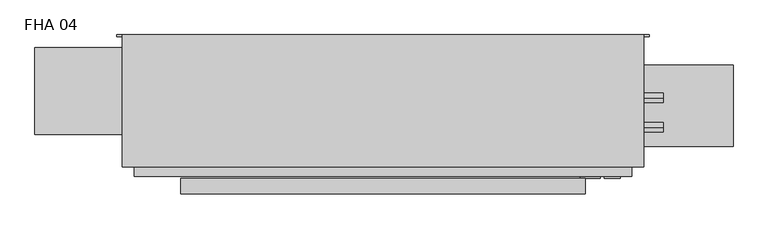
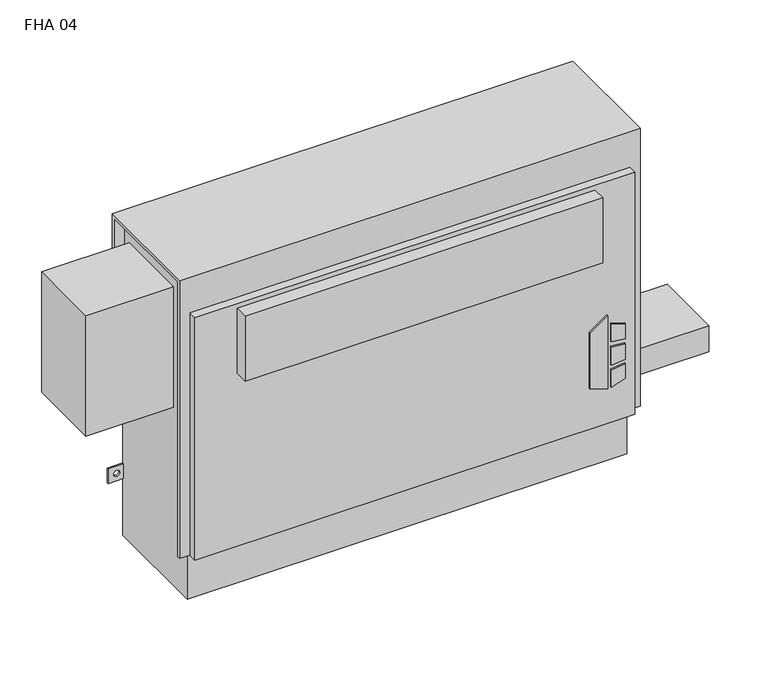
"""IFC4 building model written with IfcOpenShell, lengths in millimetres: proxy geometry, Vertical_Fan_Coil_Unit_-_FHA_-_IEC_-_2-Pipe_FS-FR_RH_2022 : FHA 04."""

import ifcopenshell
import ifcopenshell.guid

model = None  # the IFC model being written
_history = None  # IfcOwnerHistory: only IFC2X3 demands one
_inside = {}  # id of a spatial element -> (the spatial element, [elements in it])
_under = {}  # id of a project, library or spatial element -> (it, [spatial elements below it])
_declared = {}  # id of a project -> (the project, [libraries it declares])
_typed = {}  # id of a type object -> (the type object, [elements of that type])
_made_of = {}  # id of a material, layer set ... -> (it, [elements and type objects made of it])


def new_model(schema):
    """Start an empty IFC model of exactly this schema.

    Asked for "IFC4X3", IfcOpenShell would pick the latest addendum, in which some entities
    have other attributes; the version numbers below select the first issue.
    IFC2X3 requires an IfcOwnerHistory on every rooted entity: one is made here for all.
    """
    global model, _history
    if schema == "IFC4X3":
        model = ifcopenshell.file(schema_version=(4, 3, 0, 0))
    else:
        model = ifcopenshell.file(schema=schema)
    _inside.clear()
    _under.clear()
    _declared.clear()
    _typed.clear()
    _made_of.clear()
    _history = None
    if model.schema == "IFC2X3":
        org = make("IfcOrganization", Name="unknown")
        user = make(
            "IfcPersonAndOrganization",
            ThePerson=make("IfcPerson", FamilyName="unknown"),
            TheOrganization=org,
        )
        app = make(
            "IfcApplication",
            ApplicationDeveloper=org,
            Version="unknown",
            ApplicationFullName="unknown",
            ApplicationIdentifier="unknown",
        )
        _history = make(
            "IfcOwnerHistory",
            OwningUser=user,
            OwningApplication=app,
            ChangeAction="ADDED",
            CreationDate=0,
        )
    return model


def make(cls, **values):
    """One entity of the class cls with the attributes given. An attribute that is None is left unset."""
    return model.create_entity(
        cls, **{name: value for name, value in values.items() if value is not None}
    )


def rooted(cls, **values):
    """An entity with a GlobalId (a new one), such as an element, a storey or a relation."""
    return make(cls, GlobalId=ifcopenshell.guid.new(), OwnerHistory=_history, **values)


def si_unit(unit_type, name, prefix=None):
    """IfcSIUnit, for example si_unit("LENGTHUNIT", "METRE", prefix="MILLI")."""
    return make("IfcSIUnit", UnitType=unit_type, Prefix=prefix, Name=name)


def assignment(units):
    """IfcUnitAssignment: the units of a project."""
    return None if units is None else make("IfcUnitAssignment", Units=units)


def point(xyz):
    """IfcCartesianPoint."""
    return None if xyz is None else make("IfcCartesianPoint", Coordinates=xyz)


def direction(xyz):
    """IfcDirection."""
    return None if xyz is None else make("IfcDirection", DirectionRatios=xyz)


def frame(location, z_axis=None, x_axis=None):
    """IfcAxis2Placement3D, a coordinate frame: its origin and axes. An axis left out is left unset."""
    return make(
        "IfcAxis2Placement3D",
        Location=point(location),
        Axis=direction(z_axis),
        RefDirection=direction(x_axis),
    )


def frame_2d(location, x_axis=None):
    """IfcAxis2Placement2D, a coordinate frame in the plane: its origin and x axis."""
    return make(
        "IfcAxis2Placement2D", Location=point(location), RefDirection=direction(x_axis)
    )


def origin():
    """The frame at (0, 0, 0) with its axes left unset."""
    return frame((0.0, 0.0, 0.0))


def place(relative_to, where):
    """IfcLocalPlacement: puts the frame where relative to a parent placement (None: the world)."""
    return make(
        "IfcLocalPlacement", PlacementRelTo=relative_to, RelativePlacement=where
    )


def context(
    kind, dimensions, precision=None, world=None, true_north=None, identifier=None
):
    """IfcGeometricRepresentationContext, for example the 3D "Model" context."""
    return make(
        "IfcGeometricRepresentationContext",
        ContextIdentifier=identifier,
        ContextType=kind,
        CoordinateSpaceDimension=dimensions,
        Precision=precision,
        WorldCoordinateSystem=world,
        TrueNorth=true_north,
    )


def project(units=None, contexts=None):
    """IfcProject with its units and contexts."""
    return rooted(
        "IfcProject",
        Name="project",
        RepresentationContexts=contexts,
        UnitsInContext=assignment(units),
    )


def spatial(cls, under=None, at=None, **own):
    """A site, building, storey or space (cls), placed at a placement, below another one or the project."""
    s = rooted(cls, ObjectPlacement=at, **own)
    if under is not None:
        _under.setdefault(under.id(), (under, []))[1].append(s)
    return s


def polyline(points):
    """IfcPolyline through the points."""
    return make("IfcPolyline", Points=[point(p) for p in points])


def circle_curve(where, radius):
    """IfcCircle in the frame where."""
    return make("IfcCircle", Position=where, Radius=radius)


def trimmed(basis, trim1, trim2, sense, master):
    """IfcTrimmedCurve: the piece of a basis curve between two trims."""
    return make(
        "IfcTrimmedCurve",
        BasisCurve=basis,
        Trim1=trim1,
        Trim2=trim2,
        SenseAgreement=sense,
        MasterRepresentation=master,
    )


def segment(curve, same_sense, transition):
    """IfcCompositeCurveSegment."""
    return make(
        "IfcCompositeCurveSegment",
        Transition=transition,
        SameSense=same_sense,
        ParentCurve=curve,
    )


def composite_curve(segments, self_intersect=None):
    """IfcCompositeCurve: segments joined end to end."""
    return make("IfcCompositeCurve", Segments=segments, SelfIntersect=self_intersect)


def outline(outer, holes=None, kind="AREA"):
    """IfcArbitraryClosedProfileDef: a profile drawn as a closed curve; with holes, ...WithVoids."""
    if holes is None:
        return make("IfcArbitraryClosedProfileDef", ProfileType=kind, OuterCurve=outer)
    return make(
        "IfcArbitraryProfileDefWithVoids",
        ProfileType=kind,
        OuterCurve=outer,
        InnerCurves=holes,
    )


def extrude(swept, where, along, depth):
    """IfcExtrudedAreaSolid: the profile swept, set in the frame where, extruded along a direction by depth."""
    return make(
        "IfcExtrudedAreaSolid",
        SweptArea=swept,
        Position=where,
        ExtrudedDirection=direction(along),
        Depth=depth,
    )


def shape(context_of_items, identifier, shape_type, items):
    """IfcShapeRepresentation: the items that make up one representation, for example the "Body"."""
    return make(
        "IfcShapeRepresentation",
        ContextOfItems=context_of_items,
        RepresentationIdentifier=identifier,
        RepresentationType=shape_type,
        Items=items,
    )


def source(mapping_origin, context_of_items, identifier, shape_type, items):
    """IfcRepresentationMap: a shape defined once, which mapped items show again and again."""
    return make(
        "IfcRepresentationMap",
        MappingOrigin=mapping_origin,
        MappedRepresentation=shape(context_of_items, identifier, shape_type, items),
    )


def transform(
    local_origin,
    x_axis=None,
    y_axis=None,
    z_axis=None,
    scale=None,
    scale2=None,
    scale3=None,
    uniform=True,
):
    """IfcCartesianTransformationOperator3D, or its non-uniform kind. x_axis, y_axis, z_axis: its Axis1, 2, 3."""
    if uniform:
        return make(
            "IfcCartesianTransformationOperator3D",
            Axis1=direction(x_axis),
            Axis2=direction(y_axis),
            LocalOrigin=point(local_origin),
            Scale=scale,
            Axis3=direction(z_axis),
        )
    return make(
        "IfcCartesianTransformationOperator3DnonUniform",
        Axis1=direction(x_axis),
        Axis2=direction(y_axis),
        LocalOrigin=point(local_origin),
        Scale=scale,
        Axis3=direction(z_axis),
        Scale2=scale2,
        Scale3=scale3,
    )


def mapped(mapping_source, mapping_target):
    """IfcMappedItem: shows the shape of a source again, moved by a transform."""
    return make(
        "IfcMappedItem", MappingSource=mapping_source, MappingTarget=mapping_target
    )


def made_of(thing, what):
    """Note that an element or type object is made of a material, layer set ...; save() writes the relation."""
    if what is not None:
        _made_of.setdefault(what.id(), (what, []))[1].append(thing)
    return thing


def element(
    cls,
    number,
    at=None,
    inside=None,
    cuts=None,
    type_object=None,
    material=None,
    context=None,
    identifier="Body",
    shape_type=None,
    held_by="IfcProductDefinitionShape",
    body=None,
    shapes=None,
    **own,
):
    """One element of the class cls, such as IfcWall. Its Tag is "e" and its number.

    at: its placement. inside: the storey or other place that contains it. cuts: it is an
    opening in that element (IfcRelVoidsElement). A single representation is given by context,
    identifier, shape_type and body (its items); several are given by shapes. held_by: the class
    of the entity that holds the representations. save() writes the other relations.
    """
    e = rooted(cls, Tag="e%d" % number, ObjectPlacement=at, **own)
    if body is not None:
        shapes = [shape(context, identifier, shape_type, body)]
    if shapes is not None:
        e.Representation = make(held_by, Representations=shapes)
    if inside is not None:
        _inside.setdefault(inside.id(), (inside, []))[1].append(e)
    if cuts is not None:
        rooted(
            "IfcRelVoidsElement", RelatingBuildingElement=cuts, RelatedOpeningElement=e
        )
    if type_object is not None:
        _typed.setdefault(type_object.id(), (type_object, []))[1].append(e)
    return made_of(e, material)


def aggregate(whole, parts):
    """IfcRelAggregates: a whole, such as a stair, and the parts it consists of."""
    return rooted("IfcRelAggregates", RelatingObject=whole, RelatedObjects=parts)


def save(model, path):
    """Write the relations noted so far, then the file.

    IfcRelAggregates (storeys below a building ...), IfcRelContainedInSpatialStructure (elements
    in a storey), IfcRelDefinesByType, IfcRelAssociatesMaterial and IfcRelDeclares: one each for
    every whole, place, type object, material and project.
    """
    for whole, parts in _under.values():
        aggregate(whole, parts)
    for where, things in _inside.values():
        rooted(
            "IfcRelContainedInSpatialStructure",
            RelatedElements=things,
            RelatingStructure=where,
        )
    for kind, things in _typed.values():
        rooted("IfcRelDefinesByType", RelatedObjects=things, RelatingType=kind)
    for what, things in _made_of.values():
        rooted("IfcRelAssociatesMaterial", RelatedObjects=things, RelatingMaterial=what)
    for by, libraries in _declared.values():
        rooted("IfcRelDeclares", RelatingContext=by, RelatedDefinitions=libraries)
    model.write(path)


def plane_surface(at):
    """IfcPlane: the flat surface through the origin of the frame at, square to its z axis."""
    return make("IfcPlane", Position=at)


def revolved_surface(curve, axis_point, axis_direction):
    """IfcSurfaceOfRevolution: the curve turned about the line through axis_point along axis_direction."""
    return make(
        "IfcSurfaceOfRevolution",
        SweptCurve=make("IfcArbitraryOpenProfileDef", ProfileType="CURVE", Curve=curve),
        AxisPosition=make("IfcAxis1Placement", Location=point(axis_point), Axis=direction(axis_direction)),
    )


def advanced_brep(points, edges, surfaces, faces):
    """IfcAdvancedBrep: a solid bounded by faces that lie on surfaces and meet in shared edges.

    An edge is (start, end): straight between two places in points (the first is 0);
    or (start, end, curve); or (start, end, curve, False) where it runs against its curve.
    A face is (place in surfaces, loops), or (place, loops, False) where it looks against
    its surface's normal. A loop lists edges by number (the first is 1), with a minus sign
    where the edge is run from its end to its start. The first loop is the outer one.
    """
    corners = [point(p) for p in points]
    vertices = [make("IfcVertexPoint", VertexGeometry=c) for c in corners]
    made = []
    for start, end, *more in edges:
        made.append(
            make(
                "IfcEdgeCurve",
                EdgeStart=vertices[start],
                EdgeEnd=vertices[end],
                EdgeGeometry=more[0] if more else make("IfcPolyline", Points=[corners[start], corners[end]]),
                SameSense=more[1] if len(more) > 1 else True,
            )
        )
    hull = []
    for where, loops, *sense in faces:
        bounds = []
        for j, loop in enumerate(loops):
            ring = [make("IfcOrientedEdge", EdgeElement=made[abs(k) - 1], Orientation=k > 0) for k in loop]
            bounds.append(
                make(
                    "IfcFaceOuterBound" if j == 0 else "IfcFaceBound",
                    Bound=make("IfcEdgeLoop", EdgeList=ring),
                    Orientation=True,
                )
            )
        hull.append(make("IfcAdvancedFace", Bounds=bounds, FaceSurface=surfaces[where], SameSense=sense[0] if sense else True))
    return make("IfcAdvancedBrep", Outer=make("IfcClosedShell", CfsFaces=hull))


def fha_04_ae905168(model_context):
    return source(origin(), model_context, "Body", "SolidModel", [
        extrude(outline(polyline([(172.5771459, 474.7368862), (162.6290756, 506.9102728), (304.8, 506.9102728), (281.7779939, 474.7368862), (172.5771459, 474.7368862)])), frame((0.0, 9.525, 0.0), z_axis=(0.0, 1.0, 0.0), x_axis=(0.0, 0.0, 1.0)), (0.0, 0.0, 1.0), 3.175),
        extrude(outline(polyline([(251.5764313, 513.6686058), (248.3740387, 539.75), (277.6028798, 539.75), (285.6672948, 513.6686058), (251.5764313, 513.6686058)])), frame((0.0, 9.525, 0.0), z_axis=(0.0, 1.0, 0.0), x_axis=(0.0, 0.0, 1.0)), (0.0, 0.0, 1.0), 3.175),
        extrude(outline(polyline([(199.7129044, 539.75), (196.0474034, 513.6686058), (162.6290756, 513.6686058), (171.2633128, 539.75), (199.7129044, 539.75)])), frame((0.0, 9.525, 0.0), z_axis=(0.0, 1.0, 0.0), x_axis=(0.0, 0.0, 1.0)), (0.0, 0.0, 1.0), 3.175),
        extrude(outline(polyline([(239.0280658, 539.75), (241.3098921, 513.6686058), (205.3723436, 513.6686058), (208.1136086, 539.75), (239.0280658, 539.75)])), frame((0.0, 9.525, 0.0), z_axis=(0.0, 1.0, 0.0), x_axis=(0.0, 0.0, 1.0)), (0.0, 0.0, 1.0), 3.175),
        extrude(outline(composite_curve([segment(trimmed(circle_curve(frame_2d((622.3, 128.5875)), 9.525), [point((612.775, 128.5875))], [point((631.825, 128.5875))], False, "CARTESIAN"), True, "CONTINUOUS"), segment(trimmed(circle_curve(frame_2d((622.3, 128.5875)), 9.525), [point((631.825, 128.5875))], [point((612.775, 128.5875))], False, "CARTESIAN"), True, "CONTINUOUS")], self_intersect=False)), frame((0.0, 0.0, 101.6), z_axis=(0.0, 0.0, 1.0), x_axis=(1.0, 0.0, 0.0)), (0.0, 0.0, 1.0), 25.4),
        extrude(outline(polyline([(723.9, 195.2625), (723.9, 61.9125), (558.8, 61.9125), (558.8, 195.2625), (723.9, 195.2625)])), frame((0.0, 0.0, 127.0), z_axis=(0.0, 0.0, 1.0), x_axis=(1.0, 0.0, 0.0)), (0.0, 0.0, 1.0), 50.8),
        extrude(outline(polyline([(482.6, -15.875), (-177.8, -15.875), (-177.8, 9.525), (482.6, 9.525), (482.6, -15.875)])), frame((0.0, 0.0, 431.8), z_axis=(0.0, 0.0, 1.0), x_axis=(1.0, 0.0, 0.0)), (0.0, 0.0, 1.0), 127.0),
        extrude(outline(composite_curve([segment(trimmed(circle_curve(frame_2d((93.1926, 488.0102)), 7.9375), [point((93.1926, 480.0727))], [point((93.1926, 495.9477))], False, "CARTESIAN"), True, "CONTINUOUS"), segment(trimmed(circle_curve(frame_2d((93.1926, 488.0102)), 7.9375), [point((93.1926, 495.9477))], [point((93.1926, 480.0727))], False, "CARTESIAN"), True, "CONTINUOUS")], self_intersect=False)), frame((558.8, 0.0, 0.0), z_axis=(1.0, 0.0, 0.0), x_axis=(0.0, 1.0, 0.0)), (0.0, 0.0, 1.0), 50.8),
        extrude(outline(composite_curve([segment(trimmed(circle_curve(frame_2d((141.3002, 461.3402)), 7.9375), [point((141.3002, 453.4027))], [point((141.3002, 469.2777))], False, "CARTESIAN"), True, "CONTINUOUS"), segment(trimmed(circle_curve(frame_2d((141.3002, 461.3402)), 7.9375), [point((141.3002, 469.2777))], [point((141.3002, 453.4027))], False, "CARTESIAN"), True, "CONTINUOUS")], self_intersect=False)), frame((558.8, 0.0, 0.0), z_axis=(1.0, 0.0, 0.0), x_axis=(0.0, 1.0, 0.0)), (0.0, 0.0, 1.0), 50.8),
        extrude(outline(polyline([(-254.0, 223.266), (-254.0, 81.534), (-415.925, 81.534), (-415.925, 223.266), (-254.0, 223.266)])), frame((0.0, 0.0, 349.25), z_axis=(0.0, 0.0, 1.0), x_axis=(1.0, 0.0, 0.0)), (0.0, 0.0, 1.0), 234.95),
        advanced_brep(
        [(577.85, 244.475, 635.0), (-273.05, 244.475, 635.0), (-273.05, 28.575, 635.0), (577.85, 28.575, 635.0), (-254.0, 244.475, 0.0), (558.8, 244.475, 0.0), (558.8, 38.1, 0.0), (-254.0, 38.1, 0.0), (577.85, 244.475, 558.8), (558.8, 244.475, 558.8), (558.8, 244.475, 414.3375), (587.375, 244.475, 414.3375), (587.375, 244.475, 385.7625), (558.8, 244.475, 385.7625), (558.8, 244.475, 287.3375), (587.375, 244.475, 287.3375), (587.375, 244.475, 258.7625), (558.8, 244.475, 258.7625), (558.8, 244.475, 141.2875), (587.375, 244.475, 141.2875), (587.375, 244.475, 112.7125), (558.8, 244.475, 112.7125), (-254.0, 244.475, 112.7125), (-282.575, 244.475, 112.7125), (-282.575, 244.475, 141.2875), (-254.0, 244.475, 141.2875), (-254.0, 244.475, 258.7625), (-282.575, 244.475, 258.7625), (-282.575, 244.475, 287.3375), (-254.0, 244.475, 287.3375), (-254.0, 244.475, 385.7625), (-282.575, 244.475, 385.7625), (-282.575, 244.475, 414.3375), (-254.0, 244.475, 414.3375), (-254.0, 244.475, 558.8), (-273.05, 244.475, 558.8), (577.0626, 244.475, 127.0), (565.9374, 244.475, 127.0), (-261.1374, 244.475, 127.0), (-272.2626, 244.475, 127.0), (577.0626, 244.475, 273.05), (565.9374, 244.475, 273.05), (-261.1374, 244.475, 273.05), (-272.2626, 244.475, 273.05), (577.0626, 244.475, 400.05), (565.9374, 244.475, 400.05), (-261.1374, 244.475, 400.05), (-272.2626, 244.475, 400.05), (-273.05, 238.125, 558.8), (-273.05, 238.125, 628.65), (-273.05, 34.925, 628.65), (-273.05, 34.925, 92.075), (-273.05, 28.575, 92.075), (558.8, 12.7, 565.15), (-254.0, 12.7, 565.15), (-254.0, 12.7, 92.075), (558.8, 12.7, 92.075), (577.85, 28.575, 92.075), (577.85, 34.925, 92.075), (577.85, 34.925, 628.65), (577.85, 238.125, 628.65), (577.85, 238.125, 558.8), (-254.0, 28.575, 92.075), (-254.0, 28.575, 565.15), (558.8, 28.575, 565.15), (558.8, 28.575, 92.075), (-254.0, 34.925, 92.075), (-254.0, 38.1, 92.075), (558.8, 38.1, 92.075), (558.8, 34.925, 92.075), (558.8, 241.3, 112.7125), (558.8, 241.3, 141.2875), (558.8, 241.3, 258.7625), (558.8, 241.3, 287.3375), (558.8, 241.3, 385.7625), (558.8, 241.3, 414.3375), (558.8, 238.125, 558.8), (558.8, 238.125, 628.65), (558.8, 34.925, 628.65), (-254.0, 34.925, 628.65), (-254.0, 238.125, 628.65), (-254.0, 238.125, 558.8), (-254.0, 241.3, 414.3375), (-254.0, 241.3, 385.7625), (-254.0, 241.3, 287.3375), (-254.0, 241.3, 258.7625), (-254.0, 241.3, 141.2875), (-254.0, 241.3, 112.7125), (587.375, 241.3, 112.7125), (587.375, 241.3, 141.2875), (565.9374, 241.3, 127.0), (577.0626, 241.3, 127.0), (587.375, 241.3, 258.7625), (587.375, 241.3, 287.3375), (565.9374, 241.3, 273.05), (577.0626, 241.3, 273.05), (587.375, 241.3, 385.7625), (587.375, 241.3, 414.3375), (565.9374, 241.3, 400.05), (577.0626, 241.3, 400.05), (-282.575, 241.3, 141.2875), (-282.575, 241.3, 112.7125), (-272.2626, 241.3, 127.0), (-261.1374, 241.3, 127.0), (-282.575, 241.3, 287.3375), (-282.575, 241.3, 258.7625), (-272.2626, 241.3, 273.05), (-261.1374, 241.3, 273.05), (-282.575, 241.3, 414.3375), (-282.575, 241.3, 385.7625), (-272.2626, 241.3, 400.05), (-261.1374, 241.3, 400.05)],
        [
            (0, 1),
            (1, 2),
            (2, 3),
            (3, 0),
            (4, 5),
            (5, 6),
            (6, 7),
            (7, 4),
            (0, 8),
            (8, 9),
            (9, 10),
            (10, 11),
            (11, 12),
            (12, 13),
            (13, 14),
            (14, 15),
            (15, 16),
            (16, 17),
            (17, 18),
            (18, 19),
            (19, 20),
            (20, 21),
            (21, 5),
            (4, 22),
            (22, 23),
            (23, 24),
            (24, 25),
            (25, 26),
            (26, 27),
            (27, 28),
            (28, 29),
            (29, 30),
            (30, 31),
            (31, 32),
            (32, 33),
            (33, 34),
            (34, 35),
            (35, 1),
            (36, 37, circle_curve(frame((571.5, 244.475, 127.0), z_axis=(0.0, -1.0, 0.0), x_axis=(-1.0, 0.0, 0.0)), 5.5626)),
            (37, 36, circle_curve(frame((571.5, 244.475, 127.0), z_axis=(0.0, -1.0, 0.0), x_axis=(-1.0, 0.0, 0.0)), 5.5626)),
            (38, 39, circle_curve(frame((-266.7, 244.475, 127.0), z_axis=(0.0, -1.0, 0.0), x_axis=(-1.0, 0.0, 0.0)), 5.5626)),
            (39, 38, circle_curve(frame((-266.7, 244.475, 127.0), z_axis=(0.0, -1.0, 0.0), x_axis=(-1.0, 0.0, 0.0)), 5.5626)),
            (40, 41, circle_curve(frame((571.5, 244.475, 273.05), z_axis=(0.0, -1.0, 0.0), x_axis=(-1.0, 0.0, 0.0)), 5.5626)),
            (41, 40, circle_curve(frame((571.5, 244.475, 273.05), z_axis=(0.0, -1.0, 0.0), x_axis=(-1.0, 0.0, 0.0)), 5.5626)),
            (42, 43, circle_curve(frame((-266.7, 244.475, 273.05), z_axis=(0.0, -1.0, 0.0), x_axis=(-1.0, 0.0, 0.0)), 5.5626)),
            (43, 42, circle_curve(frame((-266.7, 244.475, 273.05), z_axis=(0.0, -1.0, 0.0), x_axis=(-1.0, 0.0, 0.0)), 5.5626)),
            (44, 45, circle_curve(frame((571.5, 244.475, 400.05), z_axis=(0.0, -1.0, 0.0), x_axis=(-1.0, 0.0, 0.0)), 5.5626)),
            (45, 44, circle_curve(frame((571.5, 244.475, 400.05), z_axis=(0.0, -1.0, 0.0), x_axis=(-1.0, 0.0, 0.0)), 5.5626)),
            (46, 47, circle_curve(frame((-266.7, 244.475, 400.05), z_axis=(0.0, -1.0, 0.0), x_axis=(-1.0, 0.0, 0.0)), 5.5626)),
            (47, 46, circle_curve(frame((-266.7, 244.475, 400.05), z_axis=(0.0, -1.0, 0.0), x_axis=(-1.0, 0.0, 0.0)), 5.5626)),
            (35, 48),
            (48, 49),
            (49, 50),
            (50, 51),
            (51, 52),
            (52, 2),
            (53, 54),
            (54, 55),
            (55, 56),
            (56, 53),
            (3, 57),
            (57, 58),
            (58, 59),
            (59, 60),
            (60, 61),
            (61, 8),
            (52, 62),
            (62, 63),
            (63, 64),
            (64, 65),
            (65, 57),
            (53, 64),
            (63, 54),
            (55, 62),
            (51, 66),
            (66, 67),
            (67, 68),
            (68, 69),
            (69, 58),
            (65, 56),
            (6, 68),
            (67, 7),
            (21, 70),
            (70, 71),
            (71, 18),
            (17, 72),
            (72, 73),
            (73, 14),
            (13, 74),
            (74, 75),
            (75, 10),
            (9, 76),
            (76, 77),
            (77, 78),
            (78, 69),
            (66, 79),
            (79, 80),
            (80, 81),
            (81, 34),
            (33, 82),
            (82, 83),
            (83, 30),
            (29, 84),
            (84, 85),
            (85, 26),
            (25, 86),
            (86, 87),
            (87, 22),
            (76, 61),
            (60, 77),
            (78, 59),
            (50, 79),
            (81, 48),
            (80, 49),
            (70, 88),
            (88, 89),
            (89, 71),
            (90, 91, circle_curve(frame((571.5, 241.3, 127.0), z_axis=(0.0, 1.0, 0.0), x_axis=(-1.0, 0.0, 0.0)), 5.5626)),
            (91, 90, circle_curve(frame((571.5, 241.3, 127.0), z_axis=(0.0, 1.0, 0.0), x_axis=(-1.0, 0.0, 0.0)), 5.5626)),
            (92, 93),
            (93, 73),
            (72, 92),
            (94, 95, circle_curve(frame((571.5, 241.3, 273.05), z_axis=(0.0, 1.0, 0.0), x_axis=(-1.0, 0.0, 0.0)), 5.5626)),
            (95, 94, circle_curve(frame((571.5, 241.3, 273.05), z_axis=(0.0, 1.0, 0.0), x_axis=(-1.0, 0.0, 0.0)), 5.5626)),
            (96, 97),
            (97, 75),
            (74, 96),
            (98, 99, circle_curve(frame((571.5, 241.3, 400.05), z_axis=(0.0, 1.0, 0.0), x_axis=(-1.0, 0.0, 0.0)), 5.5626)),
            (99, 98, circle_curve(frame((571.5, 241.3, 400.05), z_axis=(0.0, 1.0, 0.0), x_axis=(-1.0, 0.0, 0.0)), 5.5626)),
            (100, 101),
            (101, 87),
            (86, 100),
            (102, 103, circle_curve(frame((-266.7, 241.3, 127.0), z_axis=(0.0, 1.0, 0.0), x_axis=(-1.0, 0.0, 0.0)), 5.5626)),
            (103, 102, circle_curve(frame((-266.7, 241.3, 127.0), z_axis=(0.0, 1.0, 0.0), x_axis=(-1.0, 0.0, 0.0)), 5.5626)),
            (84, 104),
            (104, 105),
            (105, 85),
            (106, 107, circle_curve(frame((-266.7, 241.3, 273.05), z_axis=(0.0, 1.0, 0.0), x_axis=(-1.0, 0.0, 0.0)), 5.5626)),
            (107, 106, circle_curve(frame((-266.7, 241.3, 273.05), z_axis=(0.0, 1.0, 0.0), x_axis=(-1.0, 0.0, 0.0)), 5.5626)),
            (108, 109),
            (109, 83),
            (82, 108),
            (110, 111, circle_curve(frame((-266.7, 241.3, 400.05), z_axis=(0.0, 1.0, 0.0), x_axis=(-1.0, 0.0, 0.0)), 5.5626)),
            (111, 110, circle_curve(frame((-266.7, 241.3, 400.05), z_axis=(0.0, 1.0, 0.0), x_axis=(-1.0, 0.0, 0.0)), 5.5626)),
            (89, 19),
            (88, 20),
            (16, 92),
            (93, 15),
            (12, 96),
            (97, 11),
            (24, 100),
            (101, 23),
            (105, 27),
            (104, 28),
            (32, 108),
            (109, 31),
            (90, 37),
            (36, 91),
            (102, 39),
            (38, 103),
            (94, 41),
            (40, 95),
            (106, 43),
            (42, 107),
            (98, 45),
            (44, 99),
            (110, 47),
            (46, 111),
        ],
        [
            plane_surface(frame((-273.05, 244.475, 635.0), z_axis=(0.0, 0.0, 1.0), x_axis=(-1.0, 0.0, 0.0))),
            plane_surface(frame((-273.05, 244.475, 0.0), z_axis=(0.0, 0.0, -1.0), x_axis=(1.0, 0.0, 0.0))),
            plane_surface(frame((577.85, 244.475, 635.0), z_axis=(0.0, 1.0, 0.0), x_axis=(0.0, 0.0, -1.0))),
            plane_surface(frame((-273.05, 244.475, 635.0), z_axis=(-1.0, 0.0, 0.0), x_axis=(0.0, 0.0, -1.0))),
            plane_surface(frame((-273.05, 12.7, 635.0), z_axis=(0.0, -1.0, 0.0), x_axis=(0.0, 0.0, -1.0))),
            plane_surface(frame((577.85, 12.7, 635.0), z_axis=(1.0, 0.0, 0.0), x_axis=(0.0, 0.0, -1.0))),
            plane_surface(frame((-400.05, 28.575, 635.0), z_axis=(0.0, -1.0, 0.0), x_axis=(1.0, 0.0, 0.0))),
            plane_surface(frame((-400.05, 28.575, 565.15), z_axis=(0.0, 0.0, 1.0), x_axis=(1.0, 0.0, 0.0))),
            plane_surface(frame((-273.05, 12.7, 92.075), z_axis=(0.0, 0.0, -1.0), x_axis=(1.0, 0.0, 0.0))),
            plane_surface(frame((-273.05, 38.1, 92.075), z_axis=(0.0, -1.0, 0.0), x_axis=(1.0, 0.0, 0.0))),
            plane_surface(frame((558.8, 28.575, 92.075), z_axis=(1.0, 0.0, 0.0), x_axis=(0.0, -1.0, 0.0))),
            plane_surface(frame((-254.0, 28.575, 565.15), z_axis=(-1.0, 0.0, 0.0), x_axis=(0.0, -1.0, 0.0))),
            plane_surface(frame((558.8, 244.475, 0.0), z_axis=(1.0, 0.0, 0.0), x_axis=(0.0, -1.0, 0.0))),
            plane_surface(frame((-254.0, 244.475, 92.075), z_axis=(-1.0, 0.0, 0.0), x_axis=(0.0, -1.0, 0.0))),
            plane_surface(frame((558.8, 238.125, 628.65), z_axis=(0.0, -1.0, 0.0), x_axis=(1.0, 0.0, 0.0))),
            plane_surface(frame((558.8, 238.125, 558.8), z_axis=(0.0, 0.0, -1.0), x_axis=(1.0, 0.0, 0.0))),
            plane_surface(frame((558.8, 34.925, 92.075), z_axis=(0.0, 1.0, 0.0), x_axis=(1.0, 0.0, 0.0))),
            plane_surface(frame((558.8, 34.925, 628.65), z_axis=(0.0, 0.0, -1.0), x_axis=(1.0, 0.0, 0.0))),
            plane_surface(frame((-254.0, 34.925, 628.65), z_axis=(0.0, 1.0, 0.0), x_axis=(-1.0, 0.0, 0.0))),
            plane_surface(frame((-254.0, 244.475, 558.8), z_axis=(0.0, 0.0, -1.0), x_axis=(-1.0, 0.0, 0.0))),
            plane_surface(frame((-254.0, 238.125, 558.8), z_axis=(0.0, -1.0, 0.0), x_axis=(-1.0, 0.0, 0.0))),
            plane_surface(frame((-254.0, 238.125, 628.65), z_axis=(0.0, 0.0, -1.0), x_axis=(-1.0, 0.0, 0.0))),
            plane_surface(frame((587.375, 241.3, 141.2875), z_axis=(0.0, -1.0, 0.0), x_axis=(-1.0, 0.0, 0.0))),
            plane_surface(frame((558.8, 244.475, 141.2875), z_axis=(0.0, 0.0, 1.0), x_axis=(0.0, -1.0, 0.0))),
            plane_surface(frame((587.375, 244.475, 141.2875), z_axis=(1.0, 0.0, 0.0), x_axis=(0.0, -1.0, 0.0))),
            plane_surface(frame((587.375, 244.475, 112.7125), z_axis=(0.0, 0.0, -1.0), x_axis=(0.0, -1.0, 0.0))),
            plane_surface(frame((587.375, 244.475, 258.7625), z_axis=(0.0, 0.0, -1.0), x_axis=(0.0, -1.0, 0.0))),
            plane_surface(frame((558.8, 244.475, 287.3375), z_axis=(0.0, 0.0, 1.0), x_axis=(0.0, -1.0, 0.0))),
            plane_surface(frame((587.375, 244.475, 287.3375), z_axis=(1.0, 0.0, 0.0), x_axis=(0.0, -1.0, 0.0))),
            plane_surface(frame((587.375, 244.475, 385.7625), z_axis=(0.0, 0.0, -1.0), x_axis=(0.0, -1.0, 0.0))),
            plane_surface(frame((558.8, 244.475, 414.3375), z_axis=(0.0, 0.0, 1.0), x_axis=(0.0, -1.0, 0.0))),
            plane_surface(frame((587.375, 244.475, 414.3375), z_axis=(1.0, 0.0, 0.0), x_axis=(0.0, -1.0, 0.0))),
            plane_surface(frame((-282.575, 244.475, 141.2875), z_axis=(0.0, 0.0, 1.0), x_axis=(0.0, -1.0, 0.0))),
            plane_surface(frame((-254.0, 244.475, 112.7125), z_axis=(0.0, 0.0, -1.0), x_axis=(0.0, -1.0, 0.0))),
            plane_surface(frame((-282.575, 244.475, 112.7125), z_axis=(-1.0, 0.0, 0.0), x_axis=(0.0, -1.0, 0.0))),
            plane_surface(frame((-254.0, 244.475, 258.7625), z_axis=(0.0, 0.0, -1.0), x_axis=(0.0, -1.0, 0.0))),
            plane_surface(frame((-282.575, 244.475, 258.7625), z_axis=(-1.0, 0.0, 0.0), x_axis=(0.0, -1.0, 0.0))),
            plane_surface(frame((-282.575, 244.475, 287.3375), z_axis=(0.0, 0.0, 1.0), x_axis=(0.0, -1.0, 0.0))),
            plane_surface(frame((-282.575, 244.475, 414.3375), z_axis=(0.0, 0.0, 1.0), x_axis=(0.0, -1.0, 0.0))),
            plane_surface(frame((-254.0, 244.475, 385.7625), z_axis=(0.0, 0.0, -1.0), x_axis=(0.0, -1.0, 0.0))),
            plane_surface(frame((-282.575, 244.475, 385.7625), z_axis=(-1.0, 0.0, 0.0), x_axis=(0.0, -1.0, 0.0))),
            revolved_surface(polyline([(565.9374, 241.3, 127.0), (565.9374, 244.475, 127.0)]), (571.5, 244.475, 127.0), (0.0, -1.0, 0.0)),
            revolved_surface(polyline([(-272.26259999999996, 241.3, 127.0), (-272.26259999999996, 244.475, 127.0)]), (-266.7, 244.475, 127.0), (0.0, -1.0, 0.0)),
            revolved_surface(polyline([(565.9374, 241.3, 273.05), (565.9374, 244.475, 273.05)]), (571.5, 244.475, 273.05), (0.0, -1.0, 0.0)),
            revolved_surface(polyline([(-272.26259999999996, 241.3, 273.05), (-272.26259999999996, 244.475, 273.05)]), (-266.7, 244.475, 273.05), (0.0, -1.0, 0.0)),
            revolved_surface(polyline([(565.9374, 241.3, 400.05), (565.9374, 244.475, 400.05)]), (571.5, 244.475, 400.05), (0.0, -1.0, 0.0)),
            revolved_surface(polyline([(-272.26259999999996, 241.3, 400.05), (-272.26259999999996, 244.475, 400.05)]), (-266.7, 244.475, 400.05), (0.0, -1.0, 0.0)),
        ],
        [
            (0, [[1, 2, 3, 4]]),
            (1, [[5, 6, 7, 8]]),
            (2, [[-1, 9, 10, 11, 12, 13, 14, 15, 16, 17, 18, 19, 20, 21, 22, 23, -5, 24, 25, 26, 27, 28, 29, 30, 31, 32, 33, 34, 35, 36, 37, 38], [39, 40], [41, 42], [43, 44], [45, 46], [47, 48], [49, 50]]),
            (3, [[-2, -38, 51, 52, 53, 54, 55, 56]]),
            (4, [[57, 58, 59, 60]]),
            (5, [[-4, 61, 62, 63, 64, 65, 66, -9]]),
            (6, [[-3, -56, 67, 68, 69, 70, 71, -61]]),
            (7, [[-57, 72, -69, 73]]),
            (8, [[-59, 74, -67, -55, 75, 76, 77, 78, 79, -62, -71, 80]]),
            (9, [[-7, 81, -77, 82]]),
            (10, [[-70, -72, -60, -80]]),
            (11, [[-68, -74, -58, -73]]),
            (12, [[-6, -23, 83, 84, 85, -19, 86, 87, 88, -15, 89, 90, 91, -11, 92, 93, 94, 95, -78, -81]]),
            (13, [[-8, -82, -76, 96, 97, 98, 99, -36, 100, 101, 102, -32, 103, 104, 105, -28, 106, 107, 108, -24]]),
            (14, [[-93, 109, -65, 110]]),
            (15, [[-92, -10, -66, -109]]),
            (16, [[-95, 111, -63, -79]]),
            (17, [[-94, -110, -64, -111]]),
            (18, [[-96, -75, -54, 112]]),
            (19, [[-99, 113, -51, -37]]),
            (20, [[-98, 114, -52, -113]]),
            (21, [[-97, -112, -53, -114]]),
            (22, [[115, 116, 117, -84], [118, 119]]),
            (22, [[120, 121, -87, 122], [123, 124]]),
            (22, [[125, 126, -90, 127], [128, 129]]),
            (22, [[130, 131, -107, 132], [133, 134]]),
            (22, [[135, 136, 137, -104], [138, 139]]),
            (22, [[140, 141, -101, 142], [143, 144]]),
            (23, [[-117, 145, -20, -85]]),
            (24, [[-116, 146, -21, -145]]),
            (25, [[-115, -83, -22, -146]]),
            (26, [[-122, -86, -18, 147]]),
            (27, [[-121, 148, -16, -88]]),
            (28, [[-120, -147, -17, -148]]),
            (29, [[-127, -89, -14, 149]]),
            (30, [[-126, 150, -12, -91]]),
            (31, [[-125, -149, -13, -150]]),
            (32, [[-132, -106, -27, 151]]),
            (33, [[-131, 152, -25, -108]]),
            (34, [[-130, -151, -26, -152]]),
            (35, [[-137, 153, -29, -105]]),
            (36, [[-136, 154, -30, -153]]),
            (37, [[-135, -103, -31, -154]]),
            (38, [[-142, -100, -35, 155]]),
            (39, [[-141, 156, -33, -102]]),
            (40, [[-140, -155, -34, -156]]),
            (41, [[157, -39, 158, -118]]),
            (41, [[-157, -119, -158, -40]]),
            (42, [[159, -41, 160, -133]]),
            (42, [[-159, -134, -160, -42]]),
            (43, [[161, -43, 162, -123]]),
            (43, [[-161, -124, -162, -44]]),
            (44, [[163, -45, 164, -138]]),
            (44, [[-163, -139, -164, -46]]),
            (45, [[165, -47, 166, -128]]),
            (45, [[-165, -129, -166, -48]]),
            (46, [[167, -49, 168, -143]]),
            (46, [[-167, -144, -168, -50]]),
        ],
    ),
    ])


if __name__ == "__main__":
    model = new_model("IFC4")
    model_context = context("Model", 3, world=origin())
    ifc_project = project(units=[si_unit("LENGTHUNIT", "METRE", prefix="MILLI")], contexts=[model_context])
    site = spatial("IfcSite", under=ifc_project)
    building = spatial("IfcBuilding", under=site)
    placement = place(None, origin())
    fha_04_shape = fha_04_ae905168(model_context)
    element("IfcBuildingElementProxy", 1, Name="Vertical_Fan_Coil_Unit_-_FHA_-_IEC_-_2-Pipe_FS-FR_RH_2022 : FHA 04", ObjectType="Vertical_Fan_Coil_Unit_-_FHA_-_IEC_-_2-Pipe_FS-FR_RH_2022 : FHA 04", at=placement, inside=building, context=model_context, shape_type="MappedRepresentation", body=[
        mapped(fha_04_shape, transform((0.0, 0.0, 0.0), x_axis=(1.0, 0.0, 0.0), y_axis=(0.0, 1.0, 0.0), z_axis=(0.0, 0.0, 1.0))),
    ])
    save(model, "model.ifc")
